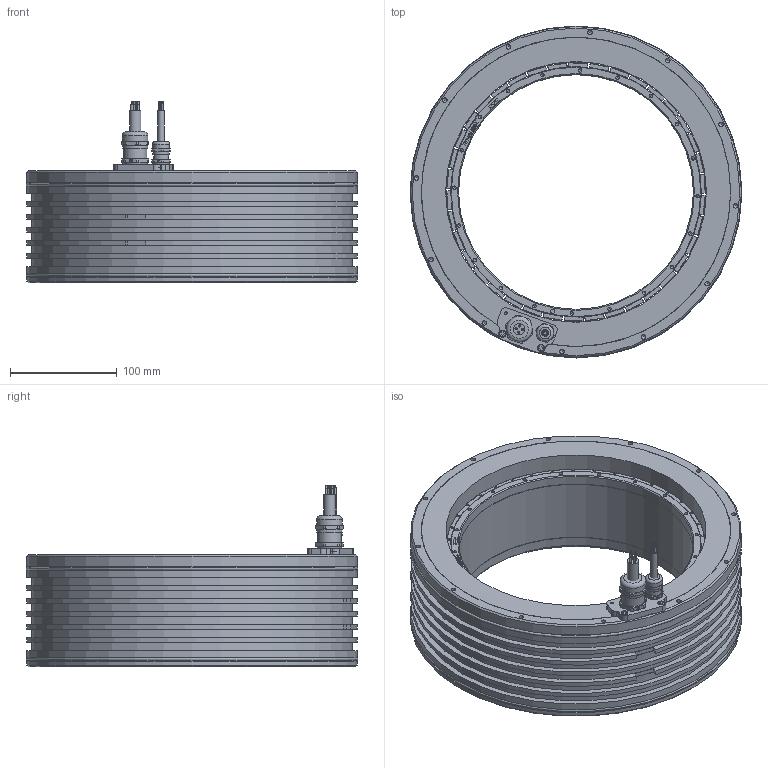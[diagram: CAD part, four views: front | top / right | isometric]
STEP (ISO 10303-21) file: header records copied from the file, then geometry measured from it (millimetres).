
FILE_DESCRIPTION(/* description */ ('QTL-310-105 KIT'),/* implementation_level */ '2;1');
FILE_NAME(/* name */ 'Torque_QTL_310_150_N_Kit_CAD_190320',/* time_stamp */ '2019-03-20T09:24:43+01:00',/* author */ ('MTE'),/* organization */ ('TECNOTION'),/* preprocessor_version */ 'ST-DEVELOPER v16.7',/* originating_system */ 'DEX',/* authorisation */ $);
FILE_SCHEMA (('AUTOMOTIVE_DESIGN {1 0 10303 214 3 1 1}'));
Length unit declared in the file: millimetre
Products named in the file (2): Torque_QTL_310_150_N_Kit_CAD_190320
Assembly tree (1 placements, depth 2):
  Torque_QTL_310_150_N_Kit_CAD_190320
    Torque_QTL_310_150_N_Kit_CAD_190320
Bounding box: 311 x 311 x 170 mm (x, y, z)
Volume: 3378171.2 mm3; surface area: 794621.4 mm2
Topology: 51 solids, 51 shells, 1733 faces, 4017 edges, 2151 vertices
Faces by surface type: cylinder 657, plane 621, sphere 304, cone 132, bspline 12, torus 7
Full cylindrical faces by diameter (mm): 1.35 x6, 1.5 x6, 1.598 x4, 2 x4, 2.459 x3, 3 x3, 3.2 x2, 3.242 x40, 3.5 x1, 4 x2, 4.134 x24, 5.5 x2, 6.4 x1, 6.5 x2, 7 x1, 8.136 x1, 10.16 x1, 10.376 x1, 10.6 x1, 12 x1, 14 x1, 14.536 x1, 15.68 x1, 15.98 x1, 18.16 x1, 18.376 x1, 20 x1, 22 x1, 23.52 x1, 23.98 x1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
Entity records: 47804 total; most frequent: CARTESIAN_POINT 8753, DIRECTION 7656, ORIENTED_EDGE 6640, EDGE_CURVE 3320, AXIS2_PLACEMENT_3D 3117, FACE_BOUND 2116, VERTEX_POINT 2060, EDGE_LOOP 2048
